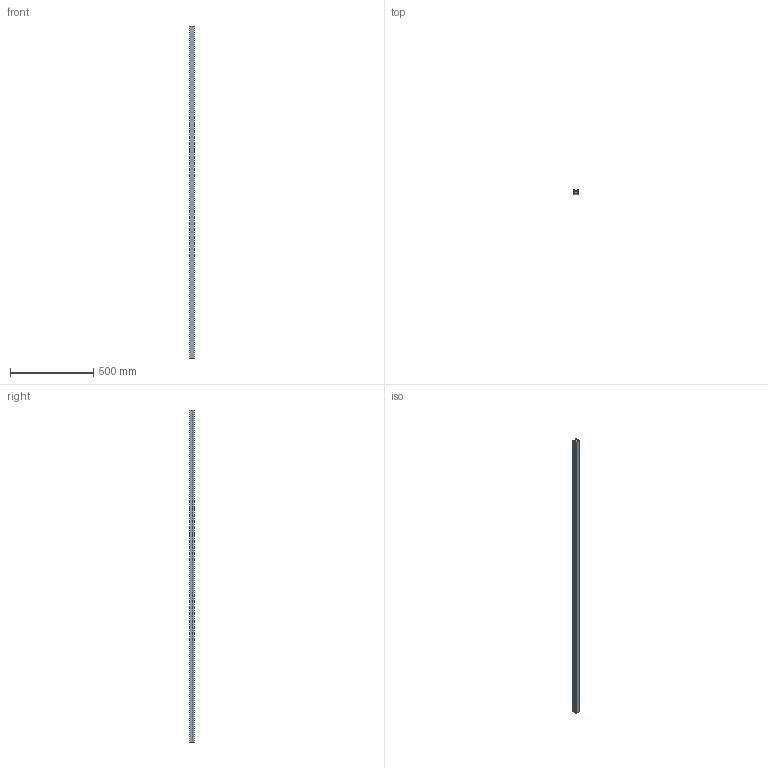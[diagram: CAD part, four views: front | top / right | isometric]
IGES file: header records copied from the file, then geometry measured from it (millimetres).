
Start section: SolidWorks IGES file using analytic representation for surfaces
Global section: file name: C:\Documents and Settings\ARGE\Desktop\yeni katalog tolgay düzenli\E kataloðu\ALPOLEN 1000 UCC ZÝNCÝR KIZAKLARI\207 UCC P30.IGS; native system: SolidWorks 2006 by SolidWorks Corporation; preprocessor: SolidWorks 2006 by SolidWorks Corporation; author: ARGE2; date: 060913.092934; units: millimetre
Bounding box: 30 x 27 x 2000 mm (x, y, z)
Surface area: 544193.2 mm2 (no closed solid volume)
Topology: 0 solids, 0 shells, 40 faces, 272 edges, 272 vertices
Faces by surface type: bspline 36, revolution 4
